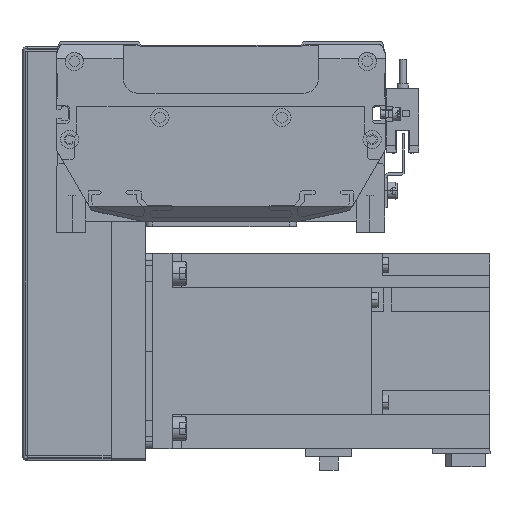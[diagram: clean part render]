
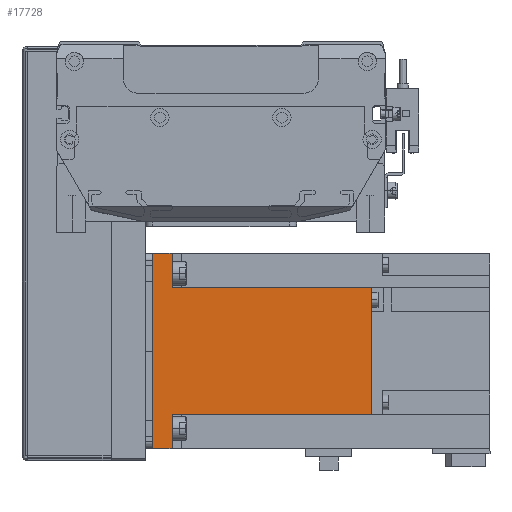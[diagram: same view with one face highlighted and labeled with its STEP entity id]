
A CAD part, front view. The second image highlights one B-rep face of the part: STEP entity #17728.
In plain terms, the highlighted planar face has unit normal (0, -1, 0) as drawn and (0, 0, 1) by its records, which use the part's own axes.
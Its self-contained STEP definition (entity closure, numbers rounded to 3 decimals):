
#305 = CARTESIAN_POINT ( 'NONE',  ( -25.95, 89.8, 40. ) ) ;
#510 = EDGE_LOOP ( 'NONE', ( #2508, #16727, #21607, #15918, #16128, #27390, #42007, #33306 ) ) ;
#795 = LINE ( 'NONE', #4100, #9177 ) ;
#1260 = EDGE_CURVE ( 'NONE', #49349, #6987, #20901, .T. ) ;
#2508 = ORIENTED_EDGE ( 'NONE', *, *, #43253, .F. ) ;
#3106 = VECTOR ( 'NONE', #11670, 1000. ) ;
#4100 = CARTESIAN_POINT ( 'NONE',  ( -40., 89.8, 40. ) ) ;
#4436 = LINE ( 'NONE', #25577, #25003 ) ;
#5150 = LINE ( 'NONE', #31777, #42483 ) ;
#6121 = EDGE_CURVE ( 'NONE', #15800, #24060, #5150, .T. ) ;
#6987 = VERTEX_POINT ( 'NONE', #50751 ) ;
#7026 = VECTOR ( 'NONE', #12869, 1000. ) ;
#7198 = DIRECTION ( 'NONE',  ( 0., 1., 0. ) ) ;
#8193 = VECTOR ( 'NONE', #13687, 1000. ) ;
#9177 = VECTOR ( 'NONE', #15179, 1000. ) ;
#9878 = EDGE_CURVE ( 'NONE', #29138, #26976, #795, .T. ) ;
#10905 = AXIS2_PLACEMENT_3D ( 'NONE', #41573, #32526, #53329 ) ;
#10969 = CARTESIAN_POINT ( 'NONE',  ( -25.95, 8., 40. ) ) ;
#11670 = DIRECTION ( 'NONE',  ( 0., -1., 0. ) ) ;
#12399 = VERTEX_POINT ( 'NONE', #10969 ) ;
#12869 = DIRECTION ( 'NONE',  ( 1., 0., 0. ) ) ;
#13687 = DIRECTION ( 'NONE',  ( 1., 0., 0. ) ) ;
#13998 = CARTESIAN_POINT ( 'NONE',  ( -25.95, 89.8, 40. ) ) ;
#15179 = DIRECTION ( 'NONE',  ( 1., 0., 0. ) ) ;
#15692 = CARTESIAN_POINT ( 'NONE',  ( 40., 8., 40. ) ) ;
#15800 = VERTEX_POINT ( 'NONE', #47293 ) ;
#15918 = ORIENTED_EDGE ( 'NONE', *, *, #6121, .T. ) ;
#16128 = ORIENTED_EDGE ( 'NONE', *, *, #18360, .F. ) ;
#16168 = DIRECTION ( 'NONE',  ( 1., 0., 0. ) ) ;
#16727 = ORIENTED_EDGE ( 'NONE', *, *, #1260, .T. ) ;
#17728 = ADVANCED_FACE ( 'NONE', ( #40602 ), #28556, .F. ) ;
#17812 = LINE ( 'NONE', #34221, #8193 ) ;
#18360 = EDGE_CURVE ( 'NONE', #38026, #24060, #28906, .T. ) ;
#19010 = EDGE_CURVE ( 'NONE', #26976, #38026, #49550, .T. ) ;
#20901 = LINE ( 'NONE', #41894, #29924 ) ;
#21236 = CARTESIAN_POINT ( 'NONE',  ( -40., 8., 40. ) ) ;
#21607 = ORIENTED_EDGE ( 'NONE', *, *, #44669, .T. ) ;
#24060 = VERTEX_POINT ( 'NONE', #15692 ) ;
#24788 = LINE ( 'NONE', #13998, #42230 ) ;
#25003 = VECTOR ( 'NONE', #16168, 1000. ) ;
#25577 = CARTESIAN_POINT ( 'NONE',  ( 0., 0., 40. ) ) ;
#26976 = VERTEX_POINT ( 'NONE', #49805 ) ;
#27390 = ORIENTED_EDGE ( 'NONE', *, *, #19010, .F. ) ;
#28556 = PLANE ( 'NONE',  #10905 ) ;
#28906 = LINE ( 'NONE', #49291, #7026 ) ;
#29138 = VERTEX_POINT ( 'NONE', #305 ) ;
#29924 = VECTOR ( 'NONE', #37541, 1000. ) ;
#30531 = DIRECTION ( 'NONE',  ( 0., 1., 0. ) ) ;
#31777 = CARTESIAN_POINT ( 'NONE',  ( 40., 89.8, 40. ) ) ;
#32526 = DIRECTION ( 'NONE',  ( 0., 0., -1. ) ) ;
#33306 = ORIENTED_EDGE ( 'NONE', *, *, #46223, .F. ) ;
#34221 = CARTESIAN_POINT ( 'NONE',  ( -40., 8., 40. ) ) ;
#36550 = CARTESIAN_POINT ( 'NONE',  ( 25.95, 8., 40. ) ) ;
#37541 = DIRECTION ( 'NONE',  ( 0., -1., 0. ) ) ;
#38026 = VERTEX_POINT ( 'NONE', #36550 ) ;
#40602 = FACE_OUTER_BOUND ( 'NONE', #510, .T. ) ;
#41573 = CARTESIAN_POINT ( 'NONE',  ( -40., 89.8, 40. ) ) ;
#41894 = CARTESIAN_POINT ( 'NONE',  ( -40., 89.8, 40. ) ) ;
#42007 = ORIENTED_EDGE ( 'NONE', *, *, #9878, .F. ) ;
#42230 = VECTOR ( 'NONE', #30531, 1000. ) ;
#42483 = VECTOR ( 'NONE', #7198, 1000. ) ;
#42869 = CARTESIAN_POINT ( 'NONE',  ( 25.95, 89.8, 40. ) ) ;
#43253 = EDGE_CURVE ( 'NONE', #49349, #12399, #17812, .T. ) ;
#44669 = EDGE_CURVE ( 'NONE', #6987, #15800, #4436, .T. ) ;
#46223 = EDGE_CURVE ( 'NONE', #12399, #29138, #24788, .T. ) ;
#47293 = CARTESIAN_POINT ( 'NONE',  ( 40., 0., 40. ) ) ;
#49291 = CARTESIAN_POINT ( 'NONE',  ( -40., 8., 40. ) ) ;
#49349 = VERTEX_POINT ( 'NONE', #21236 ) ;
#49550 = LINE ( 'NONE', #42869, #3106 ) ;
#49805 = CARTESIAN_POINT ( 'NONE',  ( 25.95, 89.8, 40. ) ) ;
#50751 = CARTESIAN_POINT ( 'NONE',  ( -40., 0., 40. ) ) ;
#53329 = DIRECTION ( 'NONE',  ( -1., 0., 0. ) ) ;
